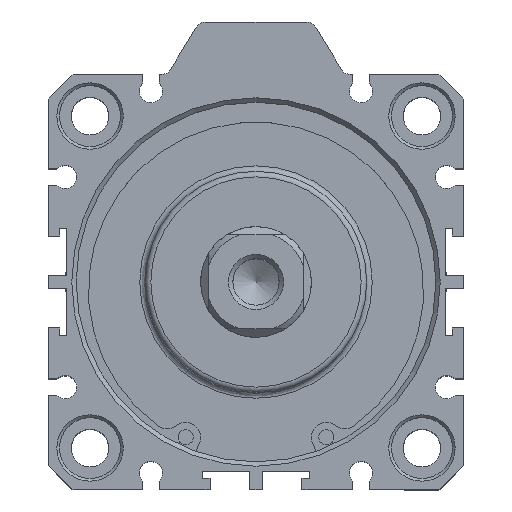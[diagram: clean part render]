
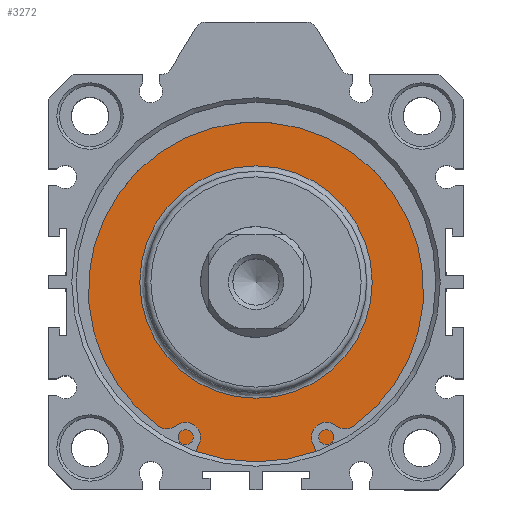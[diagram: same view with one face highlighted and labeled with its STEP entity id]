
A CAD part, top view. The second image highlights one B-rep face of the part: STEP entity #3272.
In plain terms, the highlighted planar face has unit normal (0, 0, 1).
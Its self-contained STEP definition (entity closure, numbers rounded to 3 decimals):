
#3221=CARTESIAN_POINT('',(0.359,19.684,47.3));
#3222=VERTEX_POINT('',#3221);
#3223=CARTESIAN_POINT('',(0.359,-1.316,47.3));
#3224=DIRECTION('',(0.0,0.0,1.0));
#3225=DIRECTION('',(0.0,-1.0,0.0));
#3226=AXIS2_PLACEMENT_3D('',#3223,#3224,#3225);
#3227=CIRCLE('',#3226,21.0);
#3228=EDGE_CURVE('',#3222,#3222,#3227,.T.);
#3253=CARTESIAN_POINT('',(0.359,24.934,47.3));
#3254=DIRECTION('',(0.0,0.0,1.0));
#3255=DIRECTION('',(1.0,0.0,0.0));
#3256=AXIS2_PLACEMENT_3D('',#3253,#3254,#3255);
#3257=PLANE('',#3256);
#3258=CARTESIAN_POINT('',(0.359,31.184,47.3));
#3259=VERTEX_POINT('',#3258);
#3260=CARTESIAN_POINT('',(0.359,-1.316,47.3));
#3261=DIRECTION('',(0.0,0.0,-1.0));
#3262=DIRECTION('',(0.0,1.0,0.0));
#3263=AXIS2_PLACEMENT_3D('',#3260,#3261,#3262);
#3264=CIRCLE('',#3263,32.5);
#3265=EDGE_CURVE('',#3259,#3259,#3264,.T.);
#3266=ORIENTED_EDGE('',*,*,#3265,.F.);
#3267=EDGE_LOOP('',(#3266));
#3268=FACE_OUTER_BOUND('',#3267,.T.);
#3269=ORIENTED_EDGE('',*,*,#3228,.F.);
#3270=EDGE_LOOP('',(#3269));
#3271=FACE_BOUND('',#3270,.T.);
#3272=ADVANCED_FACE('',(#3268,#3271),#3257,.T.);
